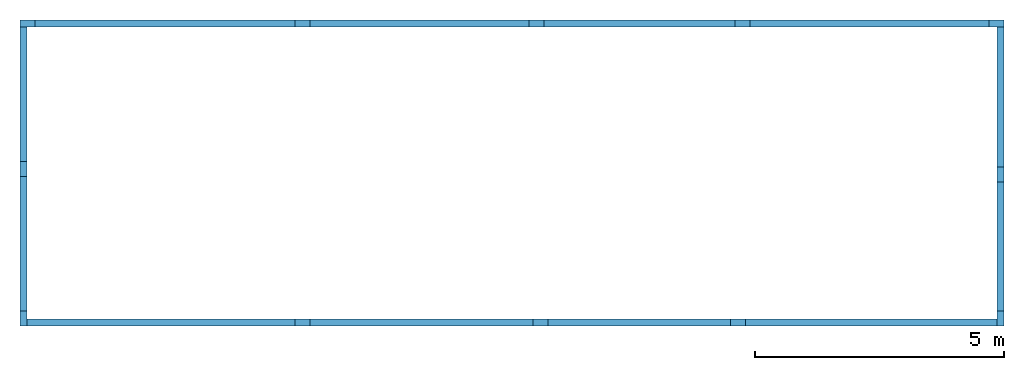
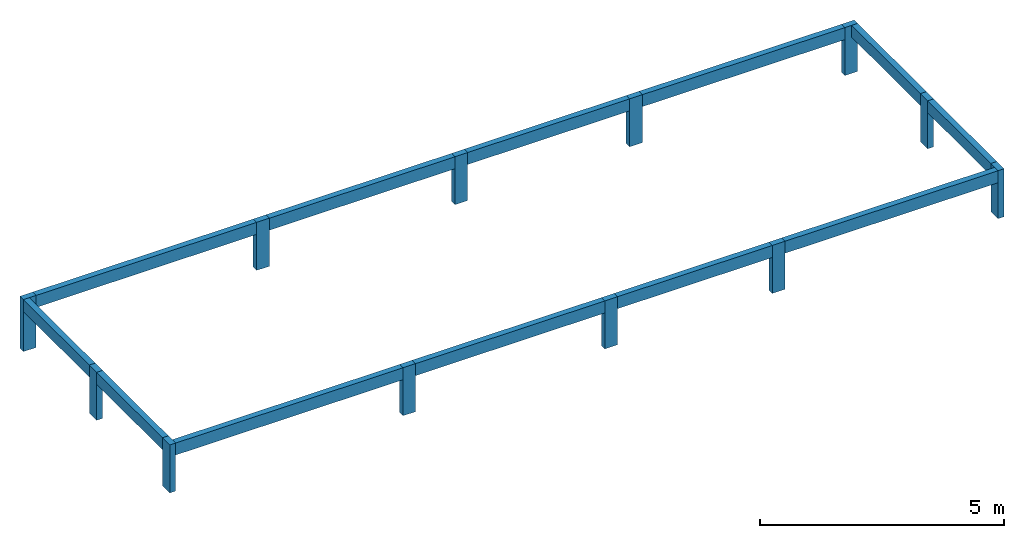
# One storey: 12 beams, 12 columns.
"""IFC4 building model written with IfcOpenShell, lengths in centimetres."""

from ifc_helpers import new_model, si_unit, derived_unit, frame, origin_with_axes, origin_2d_with_axis, place, context, project, spatial, rectangle, extrude, material, element, save


model = new_model("IFC4")

# Units and contexts
model_context = context("Model", 3, precision=1e-05, world=origin_with_axes(), identifier="Body")
ifc_project = project(units=[si_unit("LENGTHUNIT", "METRE", prefix="CENTI"), si_unit("VOLUMEUNIT", "CUBIC_METRE"), si_unit("AREAUNIT", "SQUARE_METRE"), si_unit("POWERUNIT", "WATT"), si_unit("LUMINOUSFLUXUNIT", "LUMEN"), si_unit("ELECTRICCURRENTUNIT", "AMPERE"), si_unit("PRESSUREUNIT", "PASCAL", prefix="KILO"), si_unit("MASSUNIT", "GRAM", prefix="KILO"), si_unit("PLANEANGLEUNIT", "RADIAN"), derived_unit("VOLUMETRICFLOWRATEUNIT", [(si_unit("LENGTHUNIT", "METRE"), 3), (si_unit("TIMEUNIT", "SECOND"), -1)])], contexts=[model_context])

# Site, building, storey
site_placement = place(None, origin_with_axes())
site = spatial("IfcSite", under=ifc_project, at=site_placement)
building_placement = place(site_placement, frame((0.0, 0.0, 2.0)))
building = spatial("IfcBuilding", under=site, at=building_placement)
placement_1 = place(building_placement, origin_with_axes())
placement_2 = place(placement_1, frame((0.0, 0.0, 310.0), z_axis=(0.0, 0.0, 1.0), x_axis=(1.0, 0.0, 0.0)))
storey_placement = place(placement_2, frame((0.0, 0.0, 60.0), z_axis=(0.0, 0.0, 1.0), x_axis=(1.0, 0.0, 0.0)))
storey = spatial("IfcBuildingStorey", under=building, at=storey_placement, Name="PLANTIBANDA", CompositionType="ELEMENT", Elevation=372.0)

# Columns
ifc_material = material(Name="Concreto")
column_1_placement = place(storey_placement, frame((-45.02, 613.16, 60.0), z_axis=(0.0, 0.0, 1.0), x_axis=(1.0, 0.0, 0.0)))
element("IfcColumn", 1, at=column_1_placement, inside=storey, material=ifc_material, Name="P18", context=model_context, shape_type="SolidModel", body=[
    extrude(rectangle(XDim=14.0, YDim=30.0, at=origin_2d_with_axis()), frame((0.0, 0.0, 0.0), z_axis=(0.0, 0.0, 1.0), x_axis=(0.0, -1.0, 0.0)), (0.0, 0.0, -1.0), 130.0),
])
for number, where, z_axis, x_axis, name in (
    (2, (506.15, 613.16, 60.0), (0.0, 0.0, 1.0), (1.0, 0.0, 0.0), "P19"),
    (3, (975.28, 613.16, 60.0), (0.0, 0.0, 1.0), (1.0, 0.0, 0.0), "P20"),
    (4, (1387.88, 613.16, 60.0), (0.0, 0.0, 1.0), (1.0, 0.0, 0.0), "P21"),
    (5, (1897.02, 613.16, 60.0), (0.0, 0.0, 1.0), (1.0, 0.0, 0.0), "P22"),
):
    element("IfcColumn", number, at=place(storey_placement, frame(where, z_axis=z_axis, x_axis=x_axis)), inside=storey, material=ifc_material, Name=name, context=model_context, shape_type="SolidModel", body=[
        extrude(rectangle(XDim=14.0, YDim=30.0, at=origin_2d_with_axis()), frame((0.0, 0.0, 0.0), z_axis=(0.0, 0.0, 1.0), x_axis=(0.0, -1.0, 0.0)), (0.0, 0.0, -1.0), 120.0),
    ])
column_2_placement = place(storey_placement, frame((-53.02, 321.58, 60.0), z_axis=(0.0, 0.0, 1.0), x_axis=(1.0, 0.0, 0.0)))
element("IfcColumn", 6, at=column_2_placement, inside=storey, material=ifc_material, Name="P23", context=model_context, shape_type="SolidModel", body=[
    extrude(rectangle(XDim=14.0, YDim=30.0, at=origin_2d_with_axis()), origin_with_axes(), (0.0, 0.0, -1.0), 120.0),
])
column_3_placement = place(storey_placement, frame((1905.02, 310.08, 60.0), z_axis=(0.0, 0.0, 1.0), x_axis=(1.0, 0.0, 0.0)))
element("IfcColumn", 7, at=column_3_placement, inside=storey, material=ifc_material, Name="P24", context=model_context, shape_type="SolidModel", body=[
    extrude(rectangle(XDim=14.0, YDim=30.0, at=origin_2d_with_axis()), frame((0.0, 0.0, 0.0), z_axis=(0.0, 0.0, 1.0), x_axis=(-1.0, 0.0, 0.0)), (0.0, 0.0, -1.0), 120.0),
])
column_4_placement = place(storey_placement, frame((-53.02, 22.0, 60.0), z_axis=(0.0, 0.0, 1.0), x_axis=(1.0, 0.0, 0.0)))
element("IfcColumn", 8, at=column_4_placement, inside=storey, material=ifc_material, Name="P25", context=model_context, shape_type="SolidModel", body=[
    extrude(rectangle(XDim=14.0, YDim=30.0, at=origin_2d_with_axis()), origin_with_axes(), (0.0, 0.0, -1.0), 120.0),
])
for number, where, z_axis, x_axis, name in (
    (9, (506.15, 14.0, 60.0), (0.0, 0.0, 1.0), (1.0, 0.0, 0.0), "P26"),
    (10, (983.28, 14.0, 60.0), (0.0, 0.0, 1.0), (1.0, 0.0, 0.0), "P27"),
    (11, (1379.38, 14.0, 60.0), (0.0, 0.0, 1.0), (1.0, 0.0, 0.0), "P28"),
):
    element("IfcColumn", number, at=place(storey_placement, frame(where, z_axis=z_axis, x_axis=x_axis)), inside=storey, material=ifc_material, Name=name, context=model_context, shape_type="SolidModel", body=[
        extrude(rectangle(XDim=14.0, YDim=30.0, at=origin_2d_with_axis()), frame((0.0, 0.0, 0.0), z_axis=(0.0, 0.0, 1.0), x_axis=(0.0, -1.0, 0.0)), (0.0, 0.0, -1.0), 120.0),
    ])
column_5_placement = place(storey_placement, frame((1905.02, 22.0, 60.0), z_axis=(0.0, 0.0, 1.0), x_axis=(1.0, 0.0, 0.0)))
element("IfcColumn", 12, at=column_5_placement, inside=storey, material=ifc_material, Name="P29", context=model_context, shape_type="SolidModel", body=[
    extrude(rectangle(XDim=14.0, YDim=30.0, at=origin_2d_with_axis()), frame((0.0, 0.0, 0.0), z_axis=(0.0, 0.0, 1.0), x_axis=(-1.0, 0.0, 0.0)), (0.0, 0.0, -1.0), 120.0),
])

# Beams
beam_1_placement = place(storey_placement, frame((230.565, 613.16, 60.0), z_axis=(0.0, 0.0, 1.0), x_axis=(1.0, 0.0, 0.0)))
element("IfcBeam", 13, at=beam_1_placement, inside=storey, material=ifc_material, Name="V1", context=model_context, shape_type="SolidModel", body=[
    extrude(rectangle(XDim=14.0, YDim=30.0, at=origin_2d_with_axis()), frame((-260.585, 0.0, -15.0), z_axis=(1.0, 0.0, 0.0), x_axis=(0.0, 1.0, 0.0)), (0.0, 0.0, 1.0), 521.17),
])
beam_2_placement = place(storey_placement, frame((740.715, 613.16, 60.0), z_axis=(0.0, 0.0, 1.0), x_axis=(1.0, 0.0, 0.0)))
element("IfcBeam", 14, at=beam_2_placement, inside=storey, material=ifc_material, Name="V1", context=model_context, shape_type="SolidModel", body=[
    extrude(rectangle(XDim=14.0, YDim=30.0, at=origin_2d_with_axis()), frame((-219.565, 0.0, -15.0), z_axis=(1.0, 0.0, 0.0), x_axis=(0.0, 1.0, 0.0)), (0.0, 0.0, 1.0), 439.13),
])
beam_3_placement = place(storey_placement, frame((1181.58, 613.16, 60.0), z_axis=(0.0, 0.0, 1.0), x_axis=(1.0, 0.0, 0.0)))
element("IfcBeam", 15, at=beam_3_placement, inside=storey, material=ifc_material, Name="V1", context=model_context, shape_type="SolidModel", body=[
    extrude(rectangle(XDim=14.0, YDim=30.0, at=origin_2d_with_axis()), frame((-191.3, 0.0, -15.0), z_axis=(1.0, 0.0, 0.0), x_axis=(0.0, 1.0, 0.0)), (0.0, 0.0, 1.0), 382.6),
])
beam_4_placement = place(storey_placement, frame((1642.45, 613.16, 60.0), z_axis=(0.0, 0.0, 1.0), x_axis=(1.0, 0.0, 0.0)))
element("IfcBeam", 16, at=beam_4_placement, inside=storey, material=ifc_material, Name="V1", context=model_context, shape_type="SolidModel", body=[
    extrude(rectangle(XDim=14.0, YDim=30.0, at=origin_2d_with_axis()), frame((-239.57, 0.0, -15.0), z_axis=(1.0, 0.0, 0.0), x_axis=(0.0, 1.0, 0.0)), (0.0, 0.0, 1.0), 479.14),
])
beam_5_placement = place(storey_placement, frame((222.565, 14.0, 60.0), z_axis=(0.0, 0.0, 1.0), x_axis=(1.0, 0.0, 0.0)))
element("IfcBeam", 17, at=beam_5_placement, inside=storey, material=ifc_material, Name="V2", context=model_context, shape_type="SolidModel", body=[
    extrude(rectangle(XDim=14.0, YDim=30.0, at=origin_2d_with_axis()), frame((-268.585, 0.0, -15.0), z_axis=(1.0, 0.0, 0.0), x_axis=(0.0, -1.0, 0.0)), (0.0, 0.0, 1.0), 537.17),
])
beam_6_placement = place(storey_placement, frame((744.715, 14.0, 60.0), z_axis=(0.0, 0.0, 1.0), x_axis=(1.0, 0.0, 0.0)))
element("IfcBeam", 18, at=beam_6_placement, inside=storey, material=ifc_material, Name="V2", context=model_context, shape_type="SolidModel", body=[
    extrude(rectangle(XDim=14.0, YDim=30.0, at=origin_2d_with_axis()), frame((-223.565, 0.0, -15.0), z_axis=(1.0, 0.0, 0.0), x_axis=(0.0, 1.0, 0.0)), (0.0, 0.0, 1.0), 447.13),
])
beam_7_placement = place(storey_placement, frame((1181.33, 14.0, 60.0), z_axis=(0.0, 0.0, 1.0), x_axis=(1.0, 0.0, 0.0)))
element("IfcBeam", 19, at=beam_7_placement, inside=storey, material=ifc_material, Name="V2", context=model_context, shape_type="SolidModel", body=[
    extrude(rectangle(XDim=14.0, YDim=30.0, at=origin_2d_with_axis()), frame((-183.05, 0.0, -15.0), z_axis=(1.0, 0.0, 0.0), x_axis=(0.0, 1.0, 0.0)), (0.0, 0.0, 1.0), 366.1),
])
beam_8_placement = place(storey_placement, frame((1646.2, 14.0, 60.0), z_axis=(0.0, 0.0, 1.0), x_axis=(1.0, 0.0, 0.0)))
element("IfcBeam", 20, at=beam_8_placement, inside=storey, material=ifc_material, Name="V2", context=model_context, shape_type="SolidModel", body=[
    extrude(rectangle(XDim=14.0, YDim=30.0, at=origin_2d_with_axis()), frame((-251.82, 0.0, -15.0), z_axis=(1.0, 0.0, 0.0), x_axis=(0.0, 1.0, 0.0)), (0.0, 0.0, 1.0), 503.64),
])
for number, where, z_axis, x_axis, name in (
    (21, (-53.02, 471.37, 60.0), (0.0, 0.0, 1.0), (1.0, 0.0, 0.0), "V3"),
    (22, (-53.02, 171.79, 60.0), (0.0, 0.0, 1.0), (1.0, 0.0, 0.0), "V3"),
):
    element("IfcBeam", number, at=place(storey_placement, frame(where, z_axis=z_axis, x_axis=x_axis)), inside=storey, material=ifc_material, Name=name, context=model_context, shape_type="SolidModel", body=[
        extrude(rectangle(XDim=14.0, YDim=30.0, at=origin_2d_with_axis()), frame((0.0, -134.79, -15.0), z_axis=(0.0, 1.0, 0.0), x_axis=(-1.0, 0.0, 0.0)), (0.0, 0.0, 1.0), 269.58),
    ])
beam_9_placement = place(storey_placement, frame((1905.02, 465.62, 60.0), z_axis=(0.0, 0.0, 1.0), x_axis=(1.0, 0.0, 0.0)))
element("IfcBeam", 23, at=beam_9_placement, inside=storey, material=ifc_material, Name="V4", context=model_context, shape_type="SolidModel", body=[
    extrude(rectangle(XDim=14.0, YDim=30.0, at=origin_2d_with_axis()), frame((0.0, -140.54, -15.0), z_axis=(0.0, 1.0, 0.0), x_axis=(1.0, 0.0, 0.0)), (0.0, 0.0, 1.0), 281.08),
])
beam_10_placement = place(storey_placement, frame((1905.02, 166.04, 60.0), z_axis=(0.0, 0.0, 1.0), x_axis=(1.0, 0.0, 0.0)))
element("IfcBeam", 24, at=beam_10_placement, inside=storey, material=ifc_material, Name="V4", context=model_context, shape_type="SolidModel", body=[
    extrude(rectangle(XDim=14.0, YDim=30.0, at=origin_2d_with_axis()), frame((0.0, -129.04, -15.0), z_axis=(0.0, 1.0, 0.0), x_axis=(1.0, 0.0, 0.0)), (0.0, 0.0, 1.0), 258.08),
])

save(model, "model.ifc")
